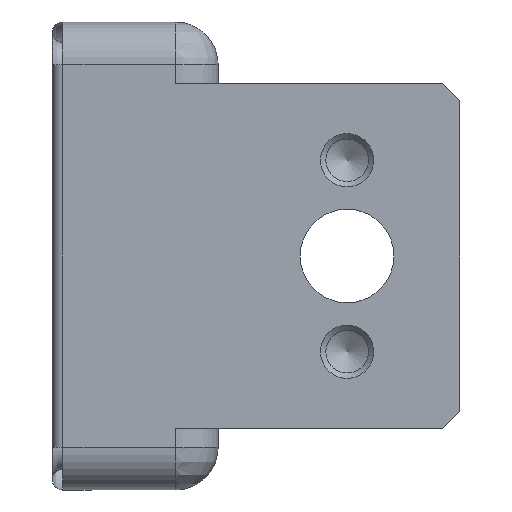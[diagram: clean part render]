
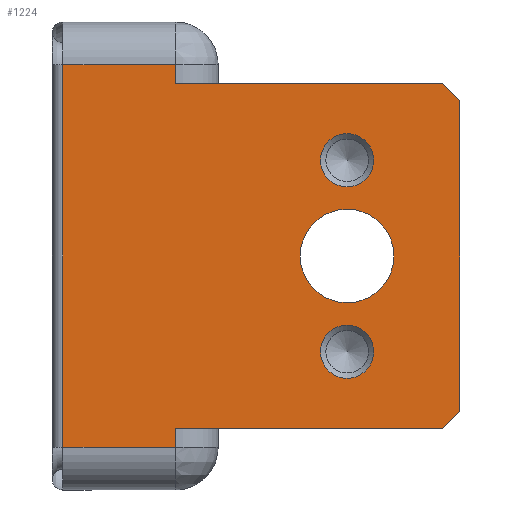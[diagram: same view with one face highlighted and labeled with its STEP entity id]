
A CAD part, front view. The second image highlights one B-rep face of the part: STEP entity #1224.
In plain terms, the highlighted planar face has unit normal (0, -1, 0).
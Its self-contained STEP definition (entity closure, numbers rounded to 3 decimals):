
#334=CARTESIAN_POINT('',(49.348,110.42,9.));
#335=VERTEX_POINT('',#334);
#340=CARTESIAN_POINT('',(49.348,110.42,-11.));
#341=DIRECTION('',(0.,0.,1.));
#342=VECTOR('',#341,1.);
#343=LINE('',#340,#342);
#344=CARTESIAN_POINT('',(49.348,110.42,8.1));
#345=VERTEX_POINT('',#344);
#346=EDGE_CURVE('',#335,#345,#343,.F.);
#375=CARTESIAN_POINT('',(61.908,110.421,8.1));
#376=VERTEX_POINT('',#375);
#379=CARTESIAN_POINT('',(61.908,110.421,8.1));
#380=DIRECTION('',(0.707,0.,-0.707));
#381=VECTOR('',#380,1.);
#382=LINE('',#379,#381);
#383=CARTESIAN_POINT('',(62.708,110.421,7.3));
#384=VERTEX_POINT('',#383);
#385=EDGE_CURVE('',#376,#384,#382,.T.);
#645=CARTESIAN_POINT('',(61.908,110.421,-8.1));
#646=VERTEX_POINT('',#645);
#654=CARTESIAN_POINT('',(62.708,110.421,-7.3));
#655=VERTEX_POINT('',#654);
#658=CARTESIAN_POINT('',(62.708,110.421,-7.3));
#659=DIRECTION('',(-0.707,0.,-0.707));
#660=VECTOR('',#659,1.);
#661=LINE('',#658,#660);
#662=EDGE_CURVE('',#655,#646,#661,.T.);
#737=CARTESIAN_POINT('',(49.348,110.42,-9.));
#738=VERTEX_POINT('',#737);
#747=CARTESIAN_POINT('',(49.348,110.42,-8.1));
#748=VERTEX_POINT('',#747);
#751=CARTESIAN_POINT('',(49.348,110.42,-11.));
#752=DIRECTION('',(0.,0.,1.));
#753=VECTOR('',#752,1.);
#754=LINE('',#751,#753);
#755=EDGE_CURVE('',#748,#738,#754,.F.);
#913=CARTESIAN_POINT('',(51.348,110.42,8.1));
#914=DIRECTION('',(-1.,0.,0.));
#915=VECTOR('',#914,1.);
#916=LINE('',#913,#915);
#917=EDGE_CURVE('',#345,#376,#916,.F.);
#933=CARTESIAN_POINT('',(62.708,110.421,-11.));
#934=DIRECTION('',(0.,0.,1.));
#935=VECTOR('',#934,1.);
#936=LINE('',#933,#935);
#937=EDGE_CURVE('',#384,#655,#936,.F.);
#950=CARTESIAN_POINT('',(51.348,110.42,-8.1));
#951=DIRECTION('',(-1.,0.,0.));
#952=VECTOR('',#951,1.);
#953=LINE('',#950,#952);
#954=EDGE_CURVE('',#646,#748,#953,.T.);
#970=CARTESIAN_POINT('',(57.408,110.421,-4.5));
#971=DIRECTION('',(0.,-1.,0.));
#972=DIRECTION('',(1.,0.,0.));
#973=AXIS2_PLACEMENT_3D('',#970,#971,#972);
#974=CIRCLE('',#973,1.25);
#975=CARTESIAN_POINT('',(58.658,110.421,-4.5));
#976=VERTEX_POINT('',#975);
#977=EDGE_CURVE('',#976,#976,#974,.T.);
#990=CARTESIAN_POINT('',(57.408,110.421,4.5));
#991=DIRECTION('',(0.,-1.,0.));
#992=DIRECTION('',(1.,0.,0.));
#993=AXIS2_PLACEMENT_3D('',#990,#991,#992);
#994=CIRCLE('',#993,1.25);
#995=CARTESIAN_POINT('',(58.658,110.421,4.5));
#996=VERTEX_POINT('',#995);
#997=EDGE_CURVE('',#996,#996,#994,.T.);
#1164=CARTESIAN_POINT('',(44.048,110.42,9.));
#1165=VERTEX_POINT('',#1164);
#1168=CARTESIAN_POINT('',(51.348,110.42,9.));
#1169=DIRECTION('',(-1.,0.,0.));
#1170=VECTOR('',#1169,1.);
#1171=LINE('',#1168,#1170);
#1172=EDGE_CURVE('',#1165,#335,#1171,.F.);
#1178=CARTESIAN_POINT('',(51.348,110.42,-11.));
#1179=DIRECTION('',(0.,1.,0.));
#1180=DIRECTION('',(-1.,0.,0.));
#1181=AXIS2_PLACEMENT_3D('',#1178,#1179,#1180);
#1182=PLANE('',#1181);
#1183=ORIENTED_EDGE('',*,*,#997,.F.);
#1184=EDGE_LOOP('',(#1183));
#1185=ORIENTED_EDGE('',*,*,#977,.F.);
#1186=EDGE_LOOP('',(#1185));
#1187=CARTESIAN_POINT('',(44.048,110.42,-11.));
#1188=DIRECTION('',(0.,0.,1.));
#1189=VECTOR('',#1188,1.);
#1190=LINE('',#1187,#1189);
#1191=CARTESIAN_POINT('',(44.048,110.42,-9.));
#1192=VERTEX_POINT('',#1191);
#1193=EDGE_CURVE('',#1192,#1165,#1190,.T.);
#1194=ORIENTED_EDGE('',*,*,#1193,.F.);
#1195=CARTESIAN_POINT('',(45.048,110.42,-9.));
#1196=DIRECTION('',(1.,0.,0.));
#1197=VECTOR('',#1196,1.);
#1198=LINE('',#1195,#1197);
#1199=EDGE_CURVE('',#738,#1192,#1198,.F.);
#1200=ORIENTED_EDGE('',*,*,#1199,.F.);
#1201=ORIENTED_EDGE('',*,*,#755,.F.);
#1202=ORIENTED_EDGE('',*,*,#954,.F.);
#1203=ORIENTED_EDGE('',*,*,#662,.F.);
#1204=ORIENTED_EDGE('',*,*,#937,.F.);
#1205=ORIENTED_EDGE('',*,*,#385,.F.);
#1206=ORIENTED_EDGE('',*,*,#917,.F.);
#1207=ORIENTED_EDGE('',*,*,#346,.F.);
#1208=ORIENTED_EDGE('',*,*,#1172,.F.);
#1209=EDGE_LOOP('',(#1194,#1200,#1201,#1202,#1203,#1204,#1205,#1206,#1207,#1208));
#1210=CARTESIAN_POINT('',(57.408,110.421,0.));
#1211=DIRECTION('',(0.,-1.,0.));
#1212=DIRECTION('',(1.,0.,0.));
#1213=AXIS2_PLACEMENT_3D('',#1210,#1211,#1212);
#1214=CIRCLE('',#1213,2.2);
#1215=CARTESIAN_POINT('',(59.608,110.421,0.));
#1216=VERTEX_POINT('',#1215);
#1217=EDGE_CURVE('',#1216,#1216,#1214,.T.);
#1218=ORIENTED_EDGE('',*,*,#1217,.F.);
#1219=EDGE_LOOP('',(#1218));
#1220=FACE_BOUND('',#1184,.T.);
#1221=FACE_BOUND('',#1186,.T.);
#1222=FACE_OUTER_BOUND('',#1209,.T.);
#1223=FACE_BOUND('',#1219,.T.);
#1224=ADVANCED_FACE('',(#1220,#1221,#1222,#1223),#1182,.F.);
